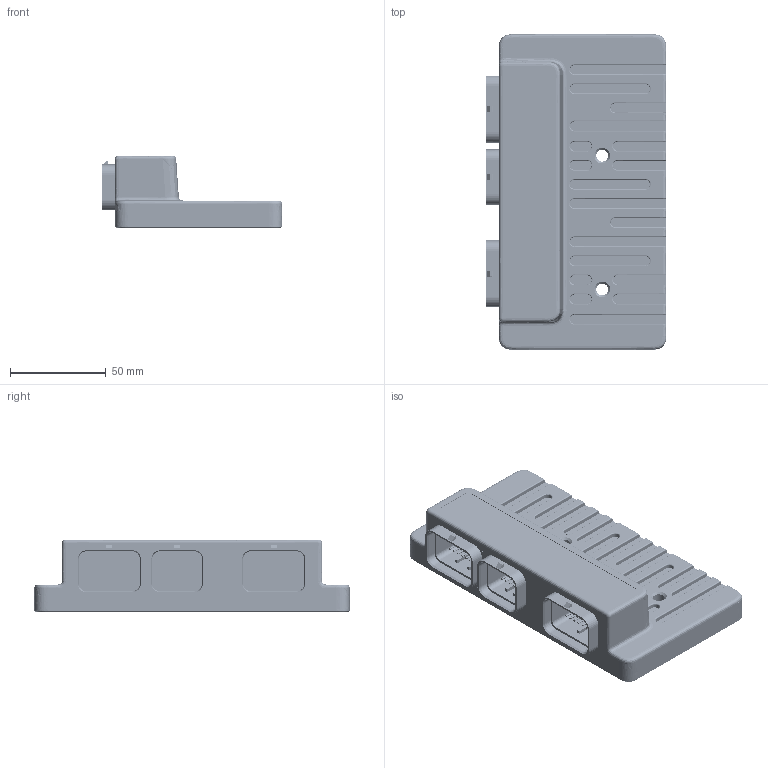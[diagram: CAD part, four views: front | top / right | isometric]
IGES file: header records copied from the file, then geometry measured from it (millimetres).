
Start section: SolidWorks IGES file using analytic representation for surfaces
Global section: file name: C:\Users\szymo\Desktop\EMU PRO 8.IGS; native system: SolidWorks 2021; preprocessor: SolidWorks 2021; author: szymo; date: 221216.151826; units: millimetre
Bounding box: 94.5 x 165 x 38.1 mm (x, y, z)
Surface area: 127731.5 mm2 (no closed solid volume)
Topology: 0 solids, 0 shells, 3644 faces, 38642 edges, 38538 vertices
Faces by surface type: revolution 2117, bspline 1527
